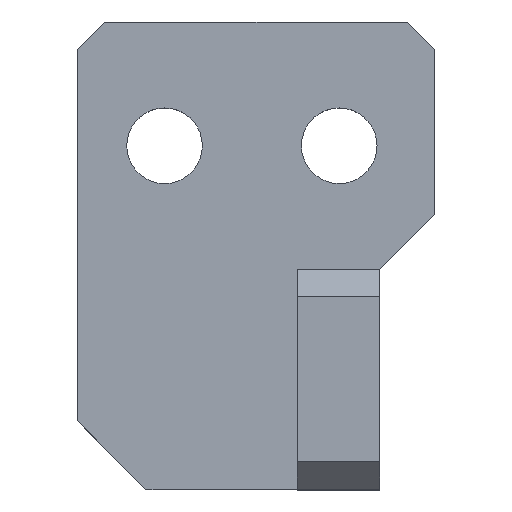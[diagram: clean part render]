
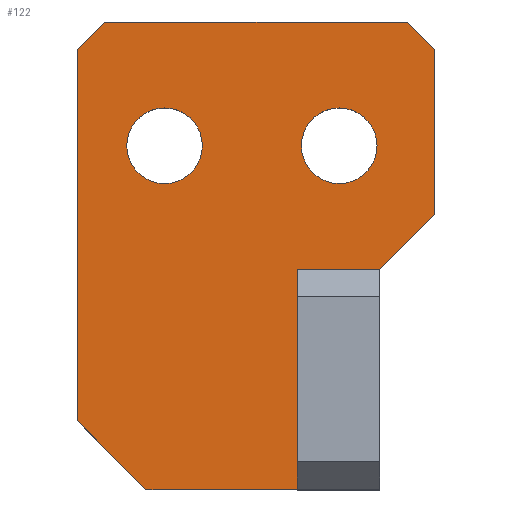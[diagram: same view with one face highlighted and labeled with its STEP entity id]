
A CAD part, top view. The second image highlights one B-rep face of the part: STEP entity #122.
In plain terms, the highlighted planar face has unit normal (0, 0, 1).
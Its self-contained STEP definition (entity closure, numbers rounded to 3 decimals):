
#1 = LINE ( 'NONE', #315, #7 ) ;
#3 = DIRECTION ( 'NONE',  ( 1., 0., 0. ) ) ;
#7 = VECTOR ( 'NONE', #3, 1000. ) ;
#14 = CARTESIAN_POINT ( 'NONE',  ( -6.9, 17., 3. ) ) ;
#19 = ORIENTED_EDGE ( 'NONE', *, *, #792, .T. ) ;
#25 = VERTEX_POINT ( 'NONE', #646 ) ;
#28 = EDGE_CURVE ( 'NONE', #907, #143, #1, .T. ) ;
#38 = VECTOR ( 'NONE', #361, 1000. ) ;
#55 = CARTESIAN_POINT ( 'NONE',  ( 5.8, 17., 3. ) ) ;
#63 = CARTESIAN_POINT ( 'NONE',  ( -11., -8., 3. ) ) ;
#74 = ORIENTED_EDGE ( 'NONE', *, *, #355, .T. ) ;
#87 = EDGE_CURVE ( 'NONE', #414, #218, #663, .T. ) ;
#89 = AXIS2_PLACEMENT_3D ( 'NONE', #982, #127, #158 ) ;
#90 = CARTESIAN_POINT ( 'NONE',  ( 0., 0., 3. ) ) ;
#91 = EDGE_CURVE ( 'NONE', #408, #25, #687, .T. ) ;
#92 = CARTESIAN_POINT ( 'NONE',  ( 10., 8., 3. ) ) ;
#100 = EDGE_CURVE ( 'NONE', #143, #977, #814, .T. ) ;
#122 = ADVANCED_FACE ( 'NONE', ( #745, #741, #661 ), #527, .F. ) ;
#124 = DIRECTION ( 'NONE',  ( 0., 1., 0. ) ) ;
#127 = DIRECTION ( 'NONE',  ( 0., 0., 1. ) ) ;
#129 = ORIENTED_EDGE ( 'NONE', *, *, #588, .T. ) ;
#143 = VERTEX_POINT ( 'NONE', #465 ) ;
#151 = DIRECTION ( 'NONE',  ( 0., -1., 0. ) ) ;
#158 = DIRECTION ( 'NONE',  ( 1., 0., 0. ) ) ;
#164 = VECTOR ( 'NONE', #715, 1000. ) ;
#171 = CARTESIAN_POINT ( 'NONE',  ( 0.3, 17., 3. ) ) ;
#181 = CARTESIAN_POINT ( 'NONE',  ( -16., 26., 3. ) ) ;
#186 = CARTESIAN_POINT ( 'NONE',  ( 8., 26., 3. ) ) ;
#190 = CARTESIAN_POINT ( 'NONE',  ( 0., 8., 3. ) ) ;
#218 = VERTEX_POINT ( 'NONE', #430 ) ;
#223 = DIRECTION ( 'NONE',  ( 1., 0., 0. ) ) ;
#245 = AXIS2_PLACEMENT_3D ( 'NONE', #344, #261, #342 ) ;
#248 = LINE ( 'NONE', #63, #164 ) ;
#250 = DIRECTION ( 'NONE',  ( -0.707, 0.707, 0. ) ) ;
#255 = VERTEX_POINT ( 'NONE', #937 ) ;
#261 = DIRECTION ( 'NONE',  ( 0., 0., 1. ) ) ;
#267 = VERTEX_POINT ( 'NONE', #844 ) ;
#275 = CARTESIAN_POINT ( 'NONE',  ( -16., 24., 3. ) ) ;
#279 = ORIENTED_EDGE ( 'NONE', *, *, #628, .F. ) ;
#286 = CARTESIAN_POINT ( 'NONE',  ( -11., -8., 3. ) ) ;
#310 = EDGE_CURVE ( 'NONE', #732, #444, #451, .T. ) ;
#315 = CARTESIAN_POINT ( 'NONE',  ( 0., -8., 3. ) ) ;
#342 = DIRECTION ( 'NONE',  ( 1., 0., 0. ) ) ;
#344 = CARTESIAN_POINT ( 'NONE',  ( 3.05, 17., 3. ) ) ;
#348 = ORIENTED_EDGE ( 'NONE', *, *, #602, .F. ) ;
#355 = EDGE_CURVE ( 'NONE', #977, #482, #538, .T. ) ;
#361 = DIRECTION ( 'NONE',  ( 0.707, 0.707, 0. ) ) ;
#407 = AXIS2_PLACEMENT_3D ( 'NONE', #554, #919, #223 ) ;
#408 = VERTEX_POINT ( 'NONE', #14 ) ;
#414 = VERTEX_POINT ( 'NONE', #879 ) ;
#416 = EDGE_CURVE ( 'NONE', #482, #414, #917, .T. ) ;
#428 = CARTESIAN_POINT ( 'NONE',  ( 3.05, 17., 3. ) ) ;
#430 = CARTESIAN_POINT ( 'NONE',  ( 10., 24., 3. ) ) ;
#437 = DIRECTION ( 'NONE',  ( -1., 0., 0. ) ) ;
#444 = VERTEX_POINT ( 'NONE', #55 ) ;
#451 = CIRCLE ( 'NONE', #245, 2.75 ) ;
#457 = ORIENTED_EDGE ( 'NONE', *, *, #310, .F. ) ;
#461 = EDGE_CURVE ( 'NONE', #218, #267, #942, .T. ) ;
#463 = LINE ( 'NONE', #275, #803 ) ;
#465 = CARTESIAN_POINT ( 'NONE',  ( 0., -8., 3. ) ) ;
#482 = VERTEX_POINT ( 'NONE', #930 ) ;
#510 = CARTESIAN_POINT ( 'NONE',  ( 10., 12., 3. ) ) ;
#511 = ORIENTED_EDGE ( 'NONE', *, *, #100, .T. ) ;
#527 = PLANE ( 'NONE',  #677 ) ;
#529 = ORIENTED_EDGE ( 'NONE', *, *, #416, .T. ) ;
#538 = LINE ( 'NONE', #92, #941 ) ;
#554 = CARTESIAN_POINT ( 'NONE',  ( -9.65, 17., 3. ) ) ;
#588 = EDGE_CURVE ( 'NONE', #775, #255, #970, .T. ) ;
#593 = DIRECTION ( 'NONE',  ( 1., 0., 0. ) ) ;
#602 = EDGE_CURVE ( 'NONE', #444, #732, #700, .T. ) ;
#625 = CIRCLE ( 'NONE', #89, 2.75 ) ;
#628 = EDGE_CURVE ( 'NONE', #25, #408, #625, .T. ) ;
#629 = DIRECTION ( 'NONE',  ( 0., 0., -1. ) ) ;
#631 = DIRECTION ( 'NONE',  ( -0.707, -0.707, 0. ) ) ;
#646 = CARTESIAN_POINT ( 'NONE',  ( -12.4, 17., 3. ) ) ;
#650 = EDGE_CURVE ( 'NONE', #267, #694, #778, .T. ) ;
#661 = FACE_OUTER_BOUND ( 'NONE', #934, .T. ) ;
#663 = LINE ( 'NONE', #676, #928 ) ;
#675 = VECTOR ( 'NONE', #850, 1000. ) ;
#676 = CARTESIAN_POINT ( 'NONE',  ( 10., 26., 3. ) ) ;
#677 = AXIS2_PLACEMENT_3D ( 'NONE', #90, #629, #437 ) ;
#687 = CIRCLE ( 'NONE', #407, 2.75 ) ;
#694 = VERTEX_POINT ( 'NONE', #704 ) ;
#698 = DIRECTION ( 'NONE',  ( 0., 0., 1. ) ) ;
#700 = CIRCLE ( 'NONE', #874, 2.75 ) ;
#704 = CARTESIAN_POINT ( 'NONE',  ( -14., 26., 3. ) ) ;
#705 = CARTESIAN_POINT ( 'NONE',  ( -16., -8., 3. ) ) ;
#711 = ORIENTED_EDGE ( 'NONE', *, *, #885, .T. ) ;
#713 = ORIENTED_EDGE ( 'NONE', *, *, #28, .T. ) ;
#715 = DIRECTION ( 'NONE',  ( 0.707, -0.707, 0. ) ) ;
#732 = VERTEX_POINT ( 'NONE', #171 ) ;
#741 = FACE_BOUND ( 'NONE', #939, .T. ) ;
#745 = FACE_BOUND ( 'NONE', #897, .T. ) ;
#760 = ORIENTED_EDGE ( 'NONE', *, *, #87, .T. ) ;
#766 = VECTOR ( 'NONE', #151, 1000. ) ;
#775 = VERTEX_POINT ( 'NONE', #931 ) ;
#778 = LINE ( 'NONE', #181, #675 ) ;
#788 = VECTOR ( 'NONE', #124, 1000. ) ;
#792 = EDGE_CURVE ( 'NONE', #255, #907, #248, .T. ) ;
#803 = VECTOR ( 'NONE', #631, 1000. ) ;
#804 = DIRECTION ( 'NONE',  ( 0., 1., 0. ) ) ;
#814 = LINE ( 'NONE', #190, #788 ) ;
#818 = DIRECTION ( 'NONE',  ( 1., 0., 0. ) ) ;
#844 = CARTESIAN_POINT ( 'NONE',  ( 8., 26., 3. ) ) ;
#848 = CARTESIAN_POINT ( 'NONE',  ( 0., 8., 3. ) ) ;
#850 = DIRECTION ( 'NONE',  ( -1., 0., 0. ) ) ;
#874 = AXIS2_PLACEMENT_3D ( 'NONE', #428, #698, #818 ) ;
#879 = CARTESIAN_POINT ( 'NONE',  ( 10., 12., 3. ) ) ;
#882 = ORIENTED_EDGE ( 'NONE', *, *, #461, .T. ) ;
#885 = EDGE_CURVE ( 'NONE', #694, #775, #463, .T. ) ;
#897 = EDGE_LOOP ( 'NONE', ( #908, #279 ) ) ;
#907 = VERTEX_POINT ( 'NONE', #286 ) ;
#908 = ORIENTED_EDGE ( 'NONE', *, *, #91, .F. ) ;
#914 = ORIENTED_EDGE ( 'NONE', *, *, #650, .T. ) ;
#917 = LINE ( 'NONE', #510, #38 ) ;
#919 = DIRECTION ( 'NONE',  ( 0., 0., 1. ) ) ;
#928 = VECTOR ( 'NONE', #804, 1000. ) ;
#930 = CARTESIAN_POINT ( 'NONE',  ( 6., 8., 3. ) ) ;
#931 = CARTESIAN_POINT ( 'NONE',  ( -16., 24., 3. ) ) ;
#934 = EDGE_LOOP ( 'NONE', ( #760, #882, #914, #711, #129, #19, #713, #511, #74, #529 ) ) ;
#937 = CARTESIAN_POINT ( 'NONE',  ( -16., -3., 3. ) ) ;
#939 = EDGE_LOOP ( 'NONE', ( #348, #457 ) ) ;
#941 = VECTOR ( 'NONE', #593, 1000. ) ;
#942 = LINE ( 'NONE', #186, #950 ) ;
#950 = VECTOR ( 'NONE', #250, 1000. ) ;
#970 = LINE ( 'NONE', #705, #766 ) ;
#977 = VERTEX_POINT ( 'NONE', #848 ) ;
#982 = CARTESIAN_POINT ( 'NONE',  ( -9.65, 17., 3. ) ) ;
